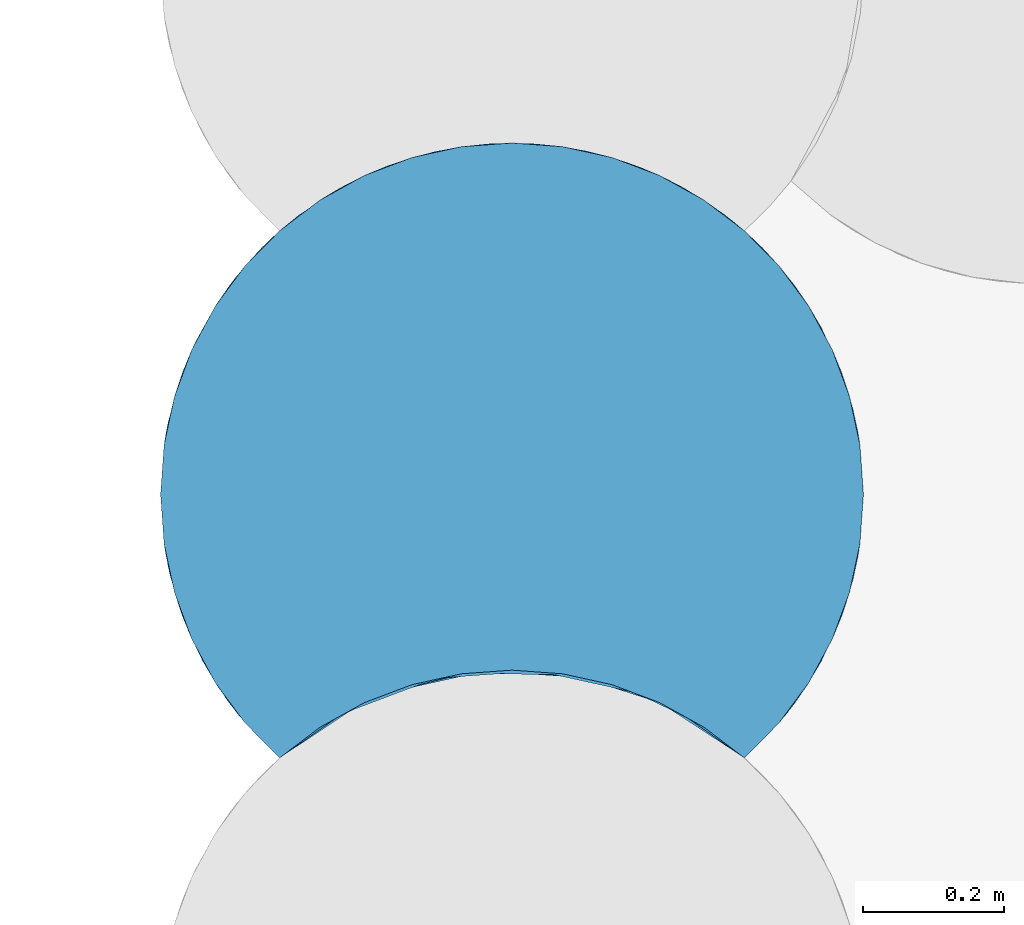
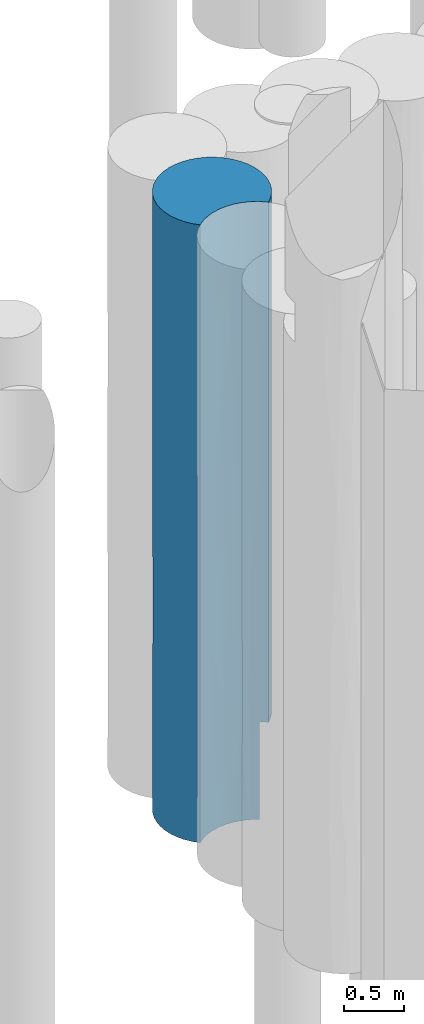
# One storey, part 78 of 104: 1 pile.
"""IFC2X3 building model written with IfcOpenShell, lengths in millimetres."""

from ifc_helpers import new_model, entity, si_unit, converted_unit, derived_unit, direction, frame, origin, place, context, subcontext, project, spatial, faceted_brep, source, transform, mapped, material, element, save


model = new_model("IFC2X3")

# Units and contexts
model_context = context("Model", 3, precision=0.01, world=origin(), true_north=direction((6.12303176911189e-17, 1.0)))
body_context = subcontext(model_context, "Body", "Model", "MODEL_VIEW")
ifc_project = project(units=[si_unit("LENGTHUNIT", "METRE", prefix="MILLI"), si_unit("AREAUNIT", "SQUARE_METRE", prefix="MILLI"), si_unit("VOLUMEUNIT", "CUBIC_METRE"), converted_unit("PLANEANGLEUNIT", "DEGREE", entity("IfcRatioMeasure", 0.0174532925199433), si_unit("PLANEANGLEUNIT", "RADIAN"), dimensions=[0, 0, 0, 0, 0, 0, 0]), si_unit("MASSUNIT", "GRAM", prefix="KILO"), derived_unit("MASSDENSITYUNIT", [(si_unit("MASSUNIT", "GRAM", prefix="KILO"), 1), (si_unit("LENGTHUNIT", "METRE"), -3)]), derived_unit("MOMENTOFINERTIAUNIT", [(si_unit("LENGTHUNIT", "METRE"), 4)]), si_unit("TIMEUNIT", "SECOND"), si_unit("FREQUENCYUNIT", "HERTZ"), si_unit("THERMODYNAMICTEMPERATUREUNIT", "DEGREE_CELSIUS"), derived_unit("THERMALTRANSMITTANCEUNIT", [(si_unit("MASSUNIT", "GRAM", prefix="KILO"), 1), (si_unit("THERMODYNAMICTEMPERATUREUNIT", "KELVIN"), -1), (si_unit("TIMEUNIT", "SECOND"), -3)]), derived_unit("VOLUMETRICFLOWRATEUNIT", [(si_unit("LENGTHUNIT", "METRE"), 3), (si_unit("TIMEUNIT", "SECOND"), -1)]), si_unit("ELECTRICCURRENTUNIT", "AMPERE"), si_unit("ELECTRICVOLTAGEUNIT", "VOLT"), si_unit("POWERUNIT", "WATT"), si_unit("FORCEUNIT", "NEWTON", prefix="KILO"), si_unit("ILLUMINANCEUNIT", "LUX"), si_unit("LUMINOUSFLUXUNIT", "LUMEN"), si_unit("LUMINOUSINTENSITYUNIT", "CANDELA"), derived_unit("USERDEFINED", [(si_unit("MASSUNIT", "GRAM", prefix="KILO"), -1), (si_unit("LENGTHUNIT", "METRE"), -2), (si_unit("TIMEUNIT", "SECOND"), 3), (si_unit("LUMINOUSFLUXUNIT", "LUMEN"), 1)]), derived_unit("LINEARVELOCITYUNIT", [(si_unit("LENGTHUNIT", "METRE"), 1), (si_unit("TIMEUNIT", "SECOND"), -1)]), si_unit("PRESSUREUNIT", "PASCAL"), derived_unit("USERDEFINED", [(si_unit("LENGTHUNIT", "METRE"), -2), (si_unit("MASSUNIT", "GRAM", prefix="KILO"), 1), (si_unit("TIMEUNIT", "SECOND"), -2)]), derived_unit("LINEARFORCEUNIT", [(si_unit("MASSUNIT", "GRAM", prefix="KILO"), 1), (si_unit("LENGTHUNIT", "METRE"), 1), (si_unit("TIMEUNIT", "SECOND"), -2), (si_unit("LENGTHUNIT", "METRE"), -1)]), derived_unit("PLANARFORCEUNIT", [(si_unit("MASSUNIT", "GRAM", prefix="KILO"), 1), (si_unit("LENGTHUNIT", "METRE"), 1), (si_unit("TIMEUNIT", "SECOND"), -2), (si_unit("LENGTHUNIT", "METRE"), -2)])], contexts=[model_context])

# Site, building, storey
site_placement = place(None, origin())
site = spatial("IfcSite", under=ifc_project, at=site_placement, Name="Theater aan de Parade", CompositionType="ELEMENT")
building_placement = place(site_placement, origin())
building = spatial("IfcBuilding", under=site, at=building_placement, Name="Theater aan de Parade", CompositionType="ELEMENT")
storey_placement = place(building_placement, frame((0.0, 0.0, -5520.0)))
storey = spatial("IfcBuildingStorey", under=building, at=storey_placement, Name="-2 kelder", CompositionType="ELEMENT", Elevation=-5520.0)

# Pile
ifc_material = material(Name="00_PBT_MAT_grout")
shared_shape = source(origin(), body_context, "Body", "Brep", [
    faceted_brep([(499.442677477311, 126.590638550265, 0.0), (427.869621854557, 121.129930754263, 0.0), (357.816033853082, 105.476813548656, 0.0), (290.725727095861, 79.9538884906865, 0.0), (227.981455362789, 45.0871828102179, 0.0), (170.876358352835, 1.59527223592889, 0.0), (121.346801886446, 51.924514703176, 0.0), (79.4054520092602, 108.722623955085, 0.0), (45.8819407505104, 170.863992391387, 0.0), (21.4449513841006, 237.111691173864, 0.0), (6.58372515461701, 306.14267642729, 0.0), (1.5952722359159, 376.595272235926, 0.0), (6.58352066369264, 447.046431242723, 0.0), (21.445878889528, 516.08204605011, 0.0), (45.8852696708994, 582.333925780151, 0.0), (79.4126856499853, 644.479321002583, 0.0), (121.35872131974, 701.279989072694, 0.0), (170.893266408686, 751.60178649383, 0.0), (227.989151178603, 795.092214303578, 0.0), (290.729798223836, 829.955782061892, 0.0), (357.815975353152, 855.476795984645, 0.0), (427.865647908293, 871.129338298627, 0.0), (499.435723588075, 876.590608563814, 0.0), (571.051711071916, 871.74757517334, 0.0), (641.238026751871, 856.699324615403, 0.0), (708.546935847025, 831.75569332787, 0.0), (771.595272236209, 797.427780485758, 0.0), (771.595272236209, 47.4277804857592, 0.0), (708.553241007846, 81.7528264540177, 0.0), (641.245770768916, 106.697072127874, 0.0), (571.060073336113, 121.74640210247, 0.0), (970.701993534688, 549.623836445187, 1936.59710604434), (903.817458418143, 673.609266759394, 1936.59696648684), (941.648218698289, 613.983992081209, 2685.55280558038), (10.8911335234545, 472.561142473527, 1461.6290679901), (1.5952722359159, 376.595272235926, 1561.5383887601), (429.563402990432, 871.379477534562, 6320.0), (465.485042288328, 875.289618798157, 4851.31994627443), (324.804496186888, 844.29712331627, 5403.323546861), (832.314186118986, 751.595272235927, 1000.0), (817.817253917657, 763.898329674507, 2324.26168103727), (9.58623032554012, 465.629550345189, 5332.19950044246), (1.5952722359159, 376.595272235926, 6320.0), (6.58372515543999, 447.047868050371, 6320.0), (881.911025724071, 701.187212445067, 2873.26139544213), (922.945694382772, 645.786322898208, 3543.81173077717), (743.911109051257, 813.954432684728, 5039.42840175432), (720.775073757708, 825.995110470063, 3962.5175417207), (609.170061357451, 864.885825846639, 4142.24158399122), (362.180461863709, 856.765565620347, 4400.60240254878), (259.279434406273, 813.954432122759, 4689.50091238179), (923.786739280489, 644.465324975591, 1000.0), (881.840058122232, 701.270344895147, 1000.0), (323.814341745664, 843.921647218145, 3159.60110456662), (473.831879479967, 875.823871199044, 3425.70874643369), (606.415263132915, 865.484594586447, 1134.66342330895), (690.194650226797, 839.661438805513, 839.163570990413), (609.170061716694, 864.885825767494, 5256.43819287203), (644.151241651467, 855.842385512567, 6320.0), (711.697783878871, 830.309868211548, 6320.0), (497.367231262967, 876.577395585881, 1167.30717586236), (857.968549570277, 727.306103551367, 4962.93441691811), (832.314186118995, 751.595272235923, 6320.0), (771.595272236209, 797.427780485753, 1000.0), (802.863033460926, 775.641304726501, 1000.0), (573.627141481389, 871.379477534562, 6320.0), (993.494242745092, 466.235680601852, 5510.84320351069), (981.745592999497, 516.078853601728, 6320.0), (996.60681931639, 447.047868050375, 6320.0), (1001.59527223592, 376.595272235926, 4123.07545194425), (986.305174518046, 499.299431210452, 4240.92356346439), (392.559574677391, 864.561681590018, 1443.73415786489), (535.330736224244, 875.45589251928, 2114.78149993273), (970.698014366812, 549.634624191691, 5278.60587104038), (941.645123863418, 613.989728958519, 4402.09431658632), (923.003434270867, 645.695924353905, 5331.30351063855), (957.312701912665, 582.317473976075, 1000.0), (175.126697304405, 755.30131863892, 939.533715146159), (1001.59527223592, 376.595272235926, 2561.53772597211), (1001.59527223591, 376.595272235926, 1780.76886298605), (994.374576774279, 461.262603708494, 2171.15327678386), (1001.59527223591, 376.595272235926, 5539.2311370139), (32.494504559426, 549.639976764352, 1966.70816278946), (32.4945046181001, 549.639976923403, 956.549973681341), (258.733070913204, 813.651276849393, 1008.0771406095), (297.928310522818, 833.234920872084, 2005.81630489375), (957.308603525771, 582.326552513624, 6320.0), (923.7850922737, 644.467920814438, 6320.0), (750.741025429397, 810.100051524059, 3044.09575945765), (684.267370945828, 842.031523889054, 2350.78487339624), (881.843742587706, 701.26602976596, 6320.0), (774.859354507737, 795.315633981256, 6320.0), (1.5952722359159, 376.595272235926, 3123.07677752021), (10.3974125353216, 470.001174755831, 3873.88299978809), (12.1476249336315, 478.776486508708, 2732.69098828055), (198.655193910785, 774.373236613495, 1838.37949558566), (110.025363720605, 687.518103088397, 2509.93474801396), (196.713971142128, 772.887326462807, 3255.54786768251), (99.3817752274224, 673.621033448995, 1353.0295655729), (1001.59527223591, 376.595272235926, 1000.0), (996.608885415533, 447.033349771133, 1000.0), (99.372313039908, 673.608219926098, 3666.81957172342), (50.2914283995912, 591.827334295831, 3918.60935181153), (80.5154796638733, 646.209456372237, 4730.25422552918), (160.125560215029, 741.832778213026, 4083.6334907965), (817.817253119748, 763.898330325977, 3660.0), (1.5952722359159, 376.595272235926, 780.762985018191), (45.8819409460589, 582.32655251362, 6320.0), (32.4925294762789, 549.634622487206, 4728.9402063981), (21.4449514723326, 516.078853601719, 6320.0), (1001.59527223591, 376.595272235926, 6320.0), (49.4106671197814, 589.970722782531, 3005.6700036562), (1.5952722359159, 376.595272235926, 2342.30758314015), (1.5952722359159, 376.595272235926, 4758.46161123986), (501.595272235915, 876.595272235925, 6320.0), (981.749228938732, 516.066336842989, 1000.0), (291.492760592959, 830.309868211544, 6320.0), (359.039302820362, 855.842385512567, 6320.0), (244.049729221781, 805.162995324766, 5505.6519205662), (145.22199374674, 727.306102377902, 5002.1937644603), (170.876358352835, 751.595272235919, 6320.0), (79.4054521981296, 644.467920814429, 6320.0), (228.331189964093, 795.315633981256, 6320.0), (661.23739172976, 850.424770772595, 3249.53922965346), (568.862056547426, 872.049790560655, 3348.26399696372), (121.346801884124, 701.26602976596, 6320.0), (388.739842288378, 863.692441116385, 2414.79154956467), (986.968382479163, 496.649192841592, 3034.33427857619), (1.59527223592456, 376.595272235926, 2379.23701498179), (1.5952722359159, 376.595272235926, 3196.93312538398), (1.5952722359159, 376.595272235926, 3940.76919438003), (1.5952722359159, 376.595272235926, 5539.23701498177), (81.9325787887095, 104.780585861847, 1017.18511568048), (8.55806942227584, 293.442902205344, 5148.84671878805), (14.9312625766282, 261.886328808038, 4158.77156998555), (32.4925295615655, 203.555921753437, 5243.64351772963), (95.9437805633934, 84.2823110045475, 3433.19596200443), (61.5454190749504, 139.200818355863, 1966.56472228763), (113.311086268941, 61.5787791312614, 1951.92213356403), (170.876358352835, 1.59527223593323, 1561.53978600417), (121.346801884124, 51.9245147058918, 6320.0), (170.876358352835, 1.59527223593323, 4721.53978600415), (170.876358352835, 1.59527223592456, 4758.46471391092), (170.876358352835, 1.59527223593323, 6320.0), (61.5454192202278, 139.200818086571, 4325.86684400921), (82.9474550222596, 103.220062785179, 5286.71455942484), (8.57236365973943, 293.358191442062, 1171.1532815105), (32.492529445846, 203.555922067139, 1063.68379680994), (6.58372515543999, 306.142676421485, 6320.0), (79.4054521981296, 108.722623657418, 6320.0), (15.0443011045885, 261.407805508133, 2148.1860563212), (45.8819409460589, 170.863991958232, 6320.0), (114.429533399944, 60.2051796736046, 4264.61051275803), (11.5744459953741, 277.199146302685, 3249.18197551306), (40.9318944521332, 182.200693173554, 3146.21578351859), (21.4449514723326, 237.111690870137, 6320.0), (170.876358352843, 1.59527223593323, 2342.30967900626), (170.876358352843, 1.59527223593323, 3123.07957200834), (170.876358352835, 1.59527223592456, 3940.76994451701), (573.617282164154, 121.380912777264, 6320.0), (644.137097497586, 105.846592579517, 6320.0), (711.683855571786, 80.3163177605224, 6320.0), (774.848704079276, 45.3225844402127, 6320.0), (832.314186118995, 1.59527223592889, 6320.0), (881.82960491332, 51.9079576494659, 6320.0), (923.776399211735, 108.708923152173, 6320.0), (957.304439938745, 170.854769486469, 6320.0), (981.744292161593, 237.107213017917, 6320.0), (996.606932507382, 306.14347172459, 6320.0), (228.341840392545, 45.3225844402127, 6320.0), (291.506688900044, 80.3163177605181, 6320.0), (359.053446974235, 105.846592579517, 6320.0), (429.573262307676, 121.38091277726, 6320.0), (501.595272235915, 126.595272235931, 6320.0), (688.956416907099, 90.1638232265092, 1340.44139437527), (758.349408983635, 55.6375932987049, 1886.54071626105), (712.198170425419, 80.0778179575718, 2645.47714214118), (802.827671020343, 25.6679998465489, 1000.0), (832.314186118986, 1.59527223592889, 1000.0), (771.595272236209, 47.4277804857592, 1000.0), (258.727089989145, 63.6479533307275, 1046.28958521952), (606.423334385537, 115.482864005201, 873.534477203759), (832.314186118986, 1.59527223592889, 5539.2306780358), (323.812272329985, 93.9208599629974, 1922.57923863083), (284.507723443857, 77.0095217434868, 3116.55337305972), (238.9230271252, 52.0400884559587, 1951.92213538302), (658.042832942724, 101.48911379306, 5463.37972999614), (763.620284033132, 52.4390149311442, 4517.96417940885), (832.314186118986, 1.59527223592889, 4123.07516784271), (832.314186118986, 1.59527223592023, 4758.45563759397), (357.534922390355, 105.392322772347, 989.159883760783), (678.371966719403, 94.3024458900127, 4619.30089569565), (743.898833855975, 63.9612334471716, 5372.40596327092), (463.55802865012, 125.146340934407, 1355.76962226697), (606.423333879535, 115.482864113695, 1807.34831183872), (584.846448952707, 119.615800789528, 4046.97468994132), (674.354485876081, 95.8012548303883, 3462.96037064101), (465.490010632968, 125.28997852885, 3342.01516516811), (400.805957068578, 116.331439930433, 2567.64778405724), (503.979521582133, 126.589587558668, 2345.64036385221), (592.444462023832, 118.27242720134, 3016.22319950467), (394.03255252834, 114.888484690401, 5404.38906364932), (259.291709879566, 63.9612330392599, 5404.38906418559), (370.221463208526, 109.027570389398, 3411.71708895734), (243.100292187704, 54.5910026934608, 4578.41386490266), (324.818576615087, 94.3024454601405, 4691.94526145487), (537.700532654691, 125.289978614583, 4983.42802673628), (762.276659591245, 53.2628410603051, 3508.94704062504), (832.314186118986, 1.59527223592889, 2561.53758392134), (434.379932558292, 122.056772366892, 4387.56403530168), (832.314186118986, 1.59527223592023, 1780.75396227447), (832.314186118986, 1.59527223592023, 3196.91127518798), (970.695457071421, 203.548987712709, 5256.33302343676), (941.638871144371, 139.189225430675, 4353.50110748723), (986.330893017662, 253.992752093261, 4222.15722588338), (994.345179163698, 291.757018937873, 2171.15327928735), (996.609072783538, 306.158511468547, 1000.0), (993.436677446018, 286.639549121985, 5508.3947697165), (903.820502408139, 79.5853999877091, 1925.71893017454), (923.789227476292, 108.729141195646, 1000.0), (957.314186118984, 170.876358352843, 1000.0), (970.703048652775, 203.569568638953, 1925.71893010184), (981.749923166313, 237.126597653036, 1000.0), (881.843695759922, 51.9244598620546, 1000.0), (986.857684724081, 256.094687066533, 3026.2790969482), (941.650178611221, 139.210185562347, 2661.03216303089), (921.257295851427, 104.779551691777, 5302.8641658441), (893.574826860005, 66.189040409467, 3764.71766030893), (941.741512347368, 139.379574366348, 3507.26687804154), (889.495408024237, 61.1059940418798, 2769.87347447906)], [[[0, 1, 2, 3, 4, 5, 6, 7, 8, 9, 10, 11, 12, 13, 14, 15, 16, 17, 18, 19, 20, 21, 22, 23, 24, 25, 26, 27, 28, 29, 30]], [[31, 32, 33]], [[34, 12, 35]], [[36, 37, 38]], [[39, 40, 32]], [[41, 42, 43]], [[44, 45, 33]], [[46, 47, 48]], [[38, 49, 50]], [[51, 52, 32]], [[53, 49, 54]], [[24, 55, 56]], [[37, 57, 48]], [[57, 58, 59]], [[60, 23, 22]], [[24, 23, 55]], [[61, 46, 62]], [[63, 26, 25]], [[64, 40, 39]], [[58, 57, 65]], [[66, 67, 68]], [[66, 69, 70]], [[71, 72, 60]], [[73, 74, 75]], [[32, 76, 51]], [[33, 32, 44]], [[77, 18, 17]], [[78, 79, 80]], [[66, 70, 73]], [[68, 81, 66]], [[82, 83, 34]], [[63, 40, 64]], [[84, 85, 71]], [[86, 73, 75]], [[75, 87, 86]], [[60, 21, 71]], [[88, 40, 89]], [[90, 61, 62]], [[91, 62, 46]], [[92, 93, 94]], [[95, 96, 97]], [[59, 91, 46]], [[77, 16, 98]], [[57, 59, 46]], [[79, 99, 100]], [[40, 63, 89]], [[86, 67, 73]], [[19, 18, 84]], [[101, 102, 103]], [[104, 50, 97]], [[18, 77, 84]], [[71, 21, 20]], [[55, 72, 89]], [[46, 48, 57]], [[55, 60, 72]], [[77, 95, 84]], [[105, 46, 61]], [[12, 11, 106, 35]], [[45, 61, 74]], [[75, 90, 87]], [[107, 108, 109]], [[15, 98, 16]], [[68, 110, 81]], [[82, 111, 96]], [[83, 14, 13]], [[32, 31, 76]], [[83, 15, 14]], [[94, 34, 112]], [[41, 93, 113]], [[57, 37, 114]], [[65, 57, 114]], [[31, 115, 76]], [[93, 41, 108]], [[114, 37, 36]], [[38, 116, 117]], [[97, 50, 53]], [[73, 70, 74]], [[116, 38, 118]], [[100, 115, 80]], [[98, 15, 83]], [[118, 119, 120]], [[82, 94, 111]], [[103, 107, 121]], [[120, 122, 118]], [[121, 119, 103]], [[20, 19, 84]], [[50, 118, 38]], [[41, 109, 108]], [[123, 124, 48]], [[119, 121, 125]], [[119, 125, 120]], [[71, 85, 126]], [[56, 89, 63]], [[25, 56, 63]], [[98, 82, 96]], [[85, 84, 95]], [[20, 84, 71]], [[83, 13, 12]], [[98, 83, 82]], [[39, 32, 52]], [[44, 32, 40]], [[127, 31, 33]], [[80, 115, 31]], [[36, 38, 117]], [[49, 38, 37]], [[127, 33, 45]], [[69, 78, 127]], [[72, 54, 124]], [[123, 47, 88]], [[54, 49, 37]], [[53, 50, 49]], [[48, 54, 37]], [[72, 71, 126]], [[69, 127, 70]], [[45, 70, 127]], [[97, 85, 95]], [[126, 85, 53]], [[40, 105, 44]], [[105, 61, 45]], [[105, 45, 44]], [[45, 74, 70]], [[74, 61, 75]], [[90, 75, 61]], [[53, 54, 126]], [[72, 126, 54]], [[16, 77, 17]], [[98, 95, 77]], [[12, 34, 83]], [[34, 94, 82]], [[94, 112, 128, 92]], [[34, 35, 112]], [[102, 93, 108]], [[93, 92, 129, 130, 113]], [[111, 102, 101]], [[93, 111, 94]], [[111, 101, 96]], [[97, 96, 101]], [[95, 98, 96]], [[97, 101, 104]], [[97, 53, 85]], [[23, 60, 55]], [[21, 60, 22]], [[119, 118, 50]], [[116, 118, 122]], [[93, 102, 111]], [[103, 102, 108]], [[103, 108, 107]], [[103, 119, 104]], [[66, 81, 69]], [[67, 66, 73]], [[41, 113, 131, 42]], [[109, 41, 43]], [[46, 105, 47]], [[88, 47, 105]], [[40, 88, 105]], [[123, 88, 89]], [[124, 89, 72]], [[48, 47, 123]], [[124, 123, 89]], [[54, 48, 124]], [[24, 56, 25]], [[89, 56, 55]], [[80, 127, 78]], [[100, 80, 79]], [[127, 80, 31]], [[103, 104, 101]], [[50, 104, 119]], [[132, 8, 7]], [[133, 134, 135]], [[136, 137, 138]], [[5, 139, 6]], [[140, 141, 142, 143]], [[135, 144, 145]], [[146, 9, 147]], [[139, 132, 6]], [[148, 42, 131]], [[11, 10, 106]], [[106, 146, 35]], [[132, 147, 8]], [[149, 145, 140]], [[150, 147, 137]], [[151, 145, 149]], [[133, 148, 131]], [[10, 9, 146]], [[136, 152, 144]], [[144, 135, 134]], [[153, 154, 134]], [[148, 133, 155]], [[145, 151, 135]], [[144, 154, 136]], [[9, 8, 147]], [[137, 147, 132]], [[135, 151, 155]], [[134, 113, 130, 129]], [[150, 154, 153]], [[150, 137, 154]], [[153, 128, 150]], [[136, 154, 137]], [[134, 154, 144]], [[152, 145, 144]], [[140, 145, 141]], [[6, 132, 7]], [[136, 138, 156]], [[138, 139, 156]], [[152, 157, 158, 141]], [[138, 132, 139]], [[157, 136, 156]], [[132, 138, 137]], [[157, 152, 136]], [[145, 152, 141]], [[133, 131, 113]], [[134, 133, 113]], [[133, 135, 155]], [[146, 150, 35]], [[10, 146, 106]], [[150, 146, 147]], [[134, 129, 153]], [[150, 128, 112, 35]], [[153, 129, 92, 128]], [[159, 160, 161, 162, 163, 164, 165, 166, 167, 168, 110, 68, 67, 86, 87, 90, 62, 91, 59, 58, 65, 114, 36, 117, 116, 122, 120, 125, 121, 107, 109, 43, 42, 148, 155, 151, 149, 140, 143, 169, 170, 171, 172, 173]], [[174, 175, 176]], [[177, 178, 175]], [[28, 27, 179]], [[3, 180, 4]], [[29, 181, 30]], [[4, 180, 5]], [[182, 163, 162]], [[29, 28, 181]], [[183, 184, 185]], [[160, 159, 186]], [[28, 174, 181]], [[187, 188, 189, 182]], [[3, 190, 180]], [[179, 177, 175]], [[186, 191, 192]], [[187, 192, 191]], [[5, 180, 139]], [[193, 181, 194]], [[162, 161, 192]], [[1, 0, 193]], [[160, 186, 161]], [[192, 182, 162]], [[3, 2, 190]], [[195, 196, 191]], [[197, 198, 199]], [[199, 200, 197]], [[201, 170, 202]], [[2, 1, 190]], [[198, 203, 184]], [[183, 180, 190]], [[184, 158, 157, 156]], [[202, 142, 204]], [[161, 186, 192]], [[202, 169, 143]], [[200, 194, 176]], [[193, 0, 181]], [[202, 205, 201]], [[170, 201, 171]], [[170, 169, 202]], [[159, 173, 206]], [[201, 206, 173]], [[207, 176, 208]], [[172, 171, 201]], [[179, 175, 174]], [[201, 205, 209]], [[183, 198, 184]], [[205, 202, 204]], [[142, 202, 143]], [[172, 201, 173]], [[203, 198, 197]], [[0, 30, 181]], [[194, 181, 174]], [[209, 206, 201]], [[206, 209, 195]], [[176, 194, 174]], [[179, 174, 28]], [[194, 199, 193]], [[196, 207, 187]], [[175, 208, 176]], [[175, 178, 210, 208]], [[195, 209, 197]], [[207, 196, 176]], [[190, 193, 183]], [[193, 190, 1]], [[192, 187, 182]], [[188, 187, 207]], [[207, 208, 211, 188]], [[196, 200, 176]], [[200, 196, 195]], [[191, 196, 187]], [[200, 195, 197]], [[206, 195, 191]], [[200, 199, 194]], [[183, 193, 198]], [[199, 198, 193]], [[156, 139, 185]], [[204, 158, 184]], [[203, 209, 205]], [[184, 203, 205]], [[203, 197, 209]], [[186, 206, 191]], [[206, 186, 159]], [[204, 184, 205]], [[139, 180, 185]], [[204, 142, 141, 158]], [[156, 185, 184]], [[183, 185, 180]], [[212, 213, 214]], [[215, 216, 79]], [[168, 217, 81]], [[218, 219, 220, 221]], [[220, 222, 221]], [[218, 223, 219]], [[224, 225, 221]], [[189, 226, 164]], [[213, 212, 226]], [[217, 167, 212]], [[216, 215, 222]], [[215, 224, 221]], [[166, 226, 212]], [[227, 189, 188, 211]], [[165, 226, 166]], [[167, 166, 212]], [[164, 163, 182, 189]], [[213, 227, 228]], [[178, 223, 210]], [[225, 218, 221]], [[216, 99, 79]], [[229, 227, 211]], [[69, 217, 214]], [[218, 229, 210]], [[110, 168, 81]], [[229, 218, 225]], [[210, 223, 218]], [[78, 69, 224]], [[81, 217, 69]], [[228, 214, 213]], [[224, 69, 214]], [[164, 226, 165]], [[227, 226, 189]], [[228, 227, 229]], [[229, 211, 208, 210]], [[228, 229, 225]], [[227, 213, 226]], [[225, 224, 228]], [[214, 228, 224]], [[167, 217, 168]], [[214, 217, 212]], [[215, 79, 78]], [[224, 215, 78]], [[215, 221, 222]], [[179, 63, 64, 39, 52, 51, 76, 115, 100, 99, 216, 222, 220, 219, 223, 178, 177]], [[63, 179, 27, 26]]]),
])
pile_placement = place(storey_placement, frame((73298.4047277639, 19527.3807468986, -3840.0)))
element("IfcPile", 1, at=pile_placement, inside=storey, material=ifc_material, Name="17_PBT_SFO_grondkering_rond:Ø1000 (grondkering)", ObjectType="17_PBT_SFO_grondkering_rond:Ø1000 (grondkering)", PredefinedType="NOTDEFINED", context=body_context, shape_type="MappedRepresentation", body=[
    mapped(shared_shape, transform((0.0, 0.0, 0.0), scale=1.0)),
])

save(model, "model.ifc")
